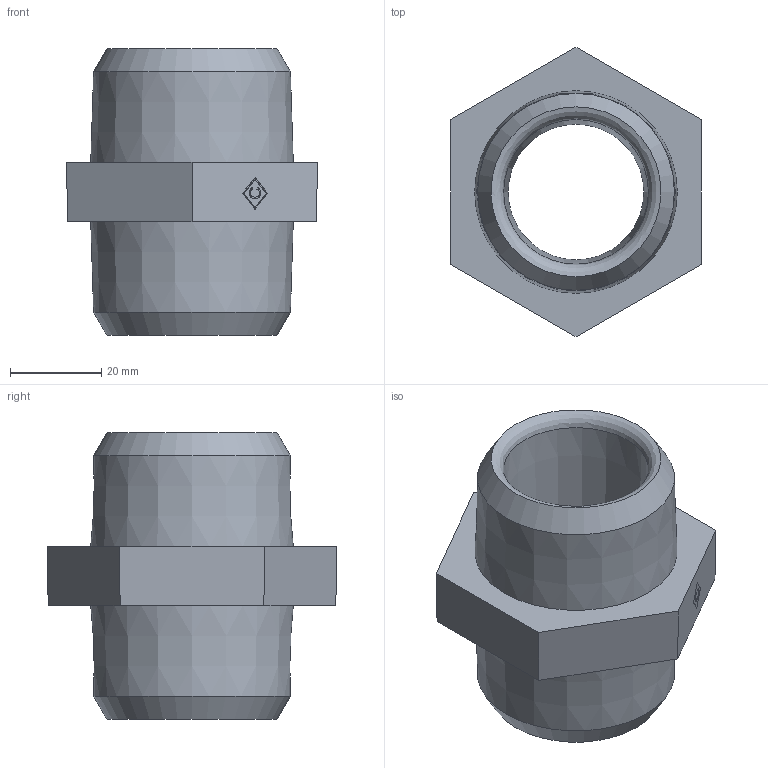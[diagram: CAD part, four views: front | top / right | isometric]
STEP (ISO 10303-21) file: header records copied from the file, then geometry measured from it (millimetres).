
FILE_DESCRIPTION((''),'2;1');
FILE_NAME('P:\Fastrack\53909_CRANE\Crane\Fig.144 Hexagon Nipple\New 1.25 inch\144-1.25.stp','2009-09-14T14:31:23',('btaylor'),(''),'Autodesk Inventor 2008','Autodesk Inventor 2008','');
FILE_SCHEMA(('AUTOMOTIVE_DESIGN { 1 0 10303 214 1 1 1 1 }'));
Length unit declared in the file: millimetre
Products named in the file (1): 144-1.25
Bounding box: 55.04 x 63.56 x 63 mm (x, y, z)
Volume: 59355.9 mm3; surface area: 18031.7 mm2
Topology: 1 solids, 1 shells, 37 faces, 92 edges, 60 vertices
Faces by surface type: plane 21, bspline 10, cone 6
Entity records: 1217 total; most frequent: CARTESIAN_POINT 400, ORIENTED_EDGE 162, DIRECTION 130, EDGE_CURVE 81, VERTEX_POINT 57, VECTOR 56, LINE 56, EDGE_LOOP 50
